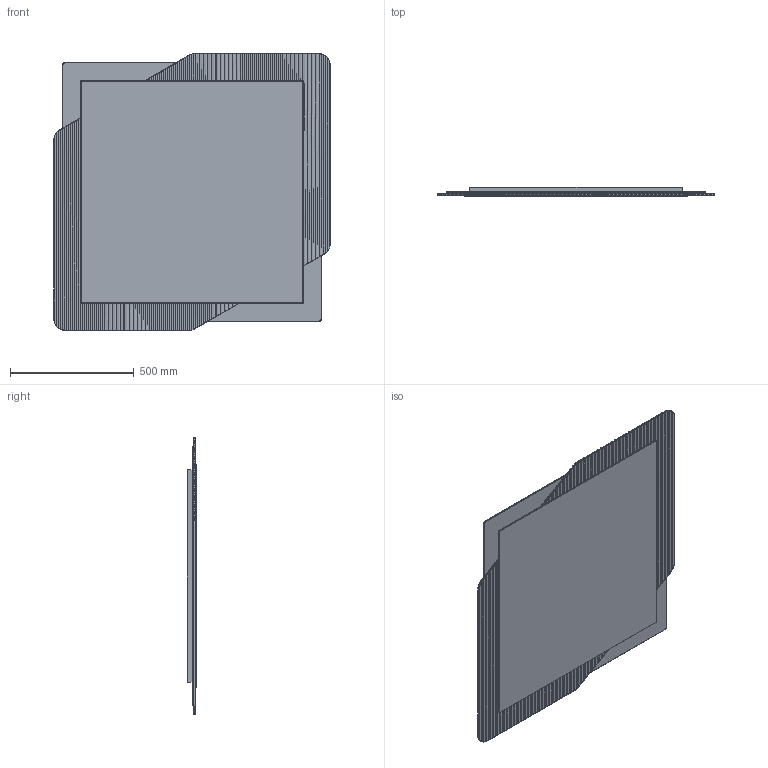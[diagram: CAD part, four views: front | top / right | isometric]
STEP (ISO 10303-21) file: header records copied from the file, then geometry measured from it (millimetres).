
FILE_DESCRIPTION(/* description */ (''),/* implementation_level */ '2;1');
FILE_NAME(/* name */ '3D_SHI~1',/* time_stamp */ '2024-04-29T18:33:57+02:00',/* author */ (''),/* organization */ (''),/* preprocessor_version */ 'ST-DEVELOPER v16.5',/* originating_system */ '',/* authorisation */ '');
FILE_SCHEMA (('AUTOMOTIVE_DESIGN'));
Length unit declared in the file: millimetre
Products named in the file (1): Document
Bounding box: 1120 x 38.51 x 1120 mm (x, y, z)
Volume: 19577897.6 mm3; surface area: 6546463.5 mm2
Topology: 4 solids, 4 shells, 931 faces, 2443 edges, 1520 vertices
Faces by surface type: bspline 896, plane 35
Entity records: 32887 total; most frequent: CARTESIAN_POINT 20360, ORIENTED_EDGE 4886, EDGE_CURVE 2443, VERTEX_POINT 1520, EDGE_LOOP 933, ADVANCED_FACE 931, FACE_OUTER_BOUND 931, B_SPLINE_CURVE_WITH_KNOTS 708
